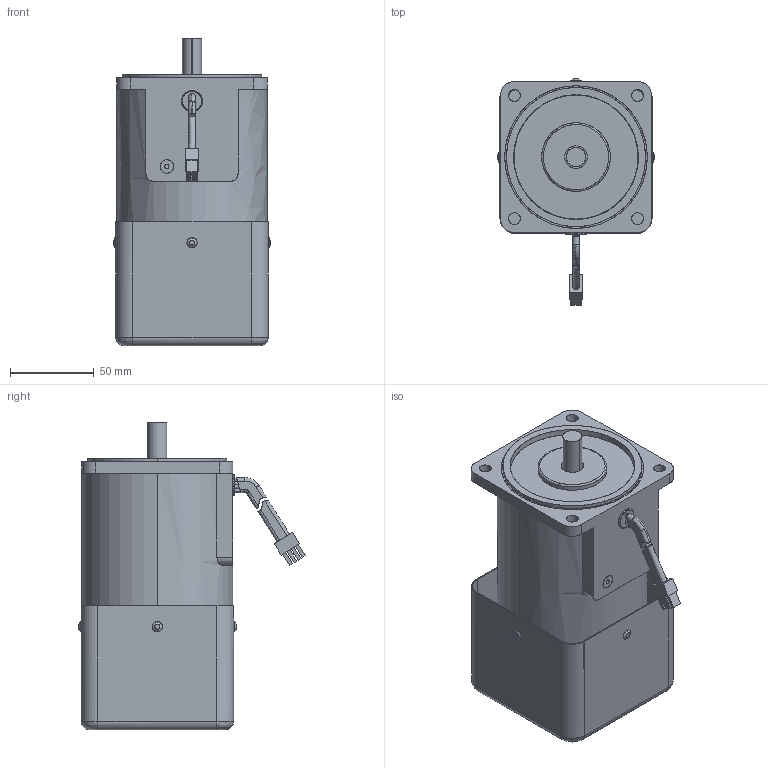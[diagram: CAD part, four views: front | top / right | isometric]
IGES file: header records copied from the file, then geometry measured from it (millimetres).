
Start section: SolidWorks IGES file using analytic representation for surfaces
Global section: file name: \\楷备家烹钦辑滚\data (D)\档搁 枚\权其捞瘤 档搁\7. SPEED INDUCTION\90\60W\(7-58) 9SDG∴-60F2H.IGS; native system: SolidWorks 2007; preprocessor: SolidWorks 2007; author: user; date: 150706.165219; units: millimetre
Bounding box: 94 x 135.4 x 183.5 mm (x, y, z)
Surface area: 168654.7 mm2 (no closed solid volume)
Topology: 0 solids, 0 shells, 394 faces, 6994 edges, 6994 vertices
Faces by surface type: revolution 238, bspline 156
